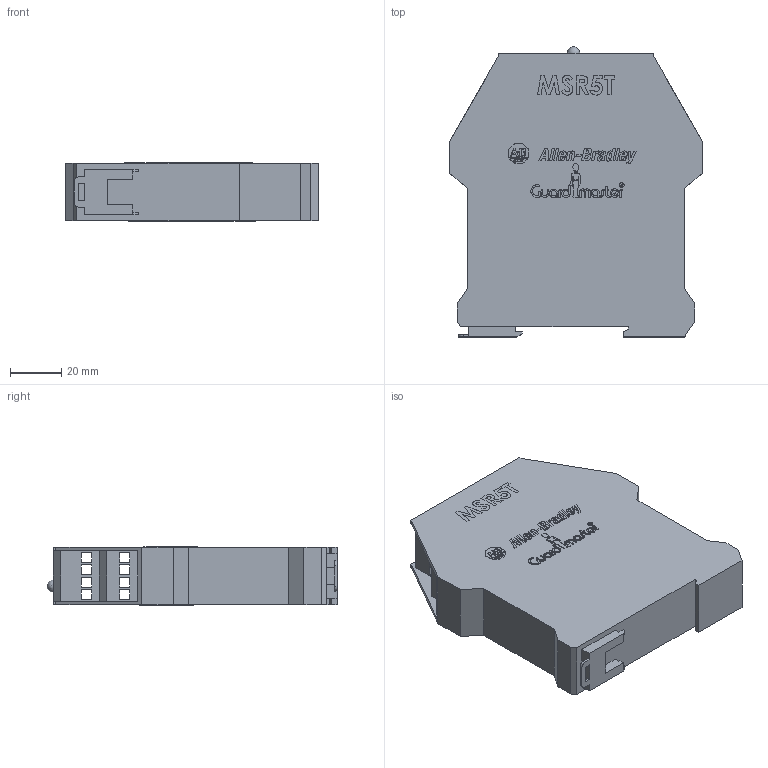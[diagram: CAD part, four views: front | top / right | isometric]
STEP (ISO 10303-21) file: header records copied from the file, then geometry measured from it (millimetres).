
FILE_DESCRIPTION (( 'STEP AP203' ), '1' );
FILE_NAME ('MSR5T (1).STEP', '2020-07-16T15:35:36', ( '' ), ( '' ), 'SwSTEP 2.0', 'SolidWorks 2019', '' );
FILE_SCHEMA (( 'CONFIG_CONTROL_DESIGN' ));
Length unit declared in the file: millimetre
Products named in the file (1): MSR5T (1)
Bounding box: 99.1 x 113.71 x 22.75 mm (x, y, z)
Volume: 200334.1 mm3; surface area: 46600.1 mm2
Topology: 73 solids, 73 shells, 1576 faces, 4084 edges, 2722 vertices
Faces by surface type: plane 1152, bspline 313, cylinder 110, sphere 1
Entity records: 85925 total; most frequent: CARTESIAN_POINT 49046, ORIENTED_EDGE 8160, DIRECTION 6204, EDGE_CURVE 4080, LINE 3232, VECTOR 3232, VERTEX_POINT 2720, EDGE_LOOP 1776
